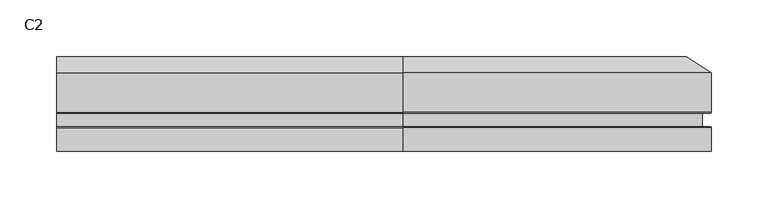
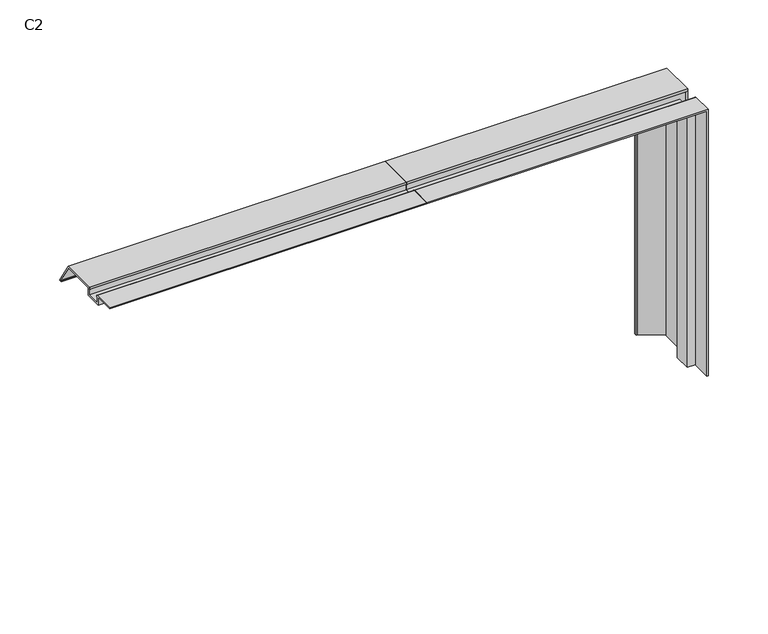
"""IFC4 building model written with IfcOpenShell, lengths in millimetres: proxy geometry, C2 profil cokolowy : C2."""

from ifc_helpers import new_model, si_unit, point, frame, frame_2d, origin, place, context, project, spatial, polyline, circle_curve, ellipse_curve, trimmed, segment, composite_curve, outline, extrude, source, transform, mapped, element, save
from ifc_brep_helpers import plane_surface, cylinder_surface, advanced_brep


def c2_118964cf(model_context):
    return source(origin(), model_context, "Body", "SolidModel", [
        advanced_brep(
        [(306.0, -62.6, 22.4417007), (306.0, -62.6, 16.8000012), (306.0, -49.2, 16.8000012), (306.0, -49.2, 22.4417007), (306.0, -48.9, 24.6000012), (306.0, -14.2215416, 24.6000012), (306.0, 0.0, 2.6407585), (306.0, 0.0, 1.8218762), (306.0, -2.4884184, 1.8218762), (306.0, -2.4884184, 2.700191), (306.0, -1.6694319, 2.700191), (306.0, -14.9821643, 23.2000012), (306.0, -47.8, 23.2000012), (306.0, -47.8, 15.4000012), (306.0, -64.0, 15.4000012), (306.0, -64.0, 23.2000012), (306.0, -83.4, 23.2000012), (306.0, -83.4, 24.6000012), (306.0, -62.9, 24.6000012), (575.4417007, -62.6, -247.0), (577.6000012, -62.9, -247.0), (577.6000012, -83.4, -247.0), (576.2000012, -83.4, -247.0), (576.2000012, -64.0, -247.0), (568.4000012, -64.0, -247.0), (568.4000012, -47.8, -247.0), (576.2000012, -47.8, -247.0), (576.2000012, -14.9821643, -247.0), (555.700191, -1.6694319, -247.0), (555.700191, -2.4884184, -247.0), (554.8218762, -2.4884184, -247.0), (554.8218762, 0.0, -247.0), (555.6407585, 0.0, -247.0), (577.6000012, -14.2215416, -247.0), (577.6000012, -48.9, -247.0), (575.4417007, -49.2, -247.0), (569.8000012, -49.2, -247.0), (569.8000012, -62.6, -247.0), (575.4417007, -62.6, 22.4417007), (569.8000012, -62.6, 16.8000012), (569.8000012, -49.2, 16.8000012), (575.4417007, -49.2, 22.4417007), (577.6000012, -48.9, 24.6000012), (577.6000012, -14.2215416, 24.6000012), (555.6407585, 0.0, 2.6407585), (554.8218762, 0.0, 1.8218762), (554.8218762, -2.4884184, 1.8218762), (555.700191, -2.4884184, 2.700191), (555.700191, -1.6694319, 2.700191), (576.2000012, -14.9821643, 23.2000012), (576.2000012, -47.8, 23.2000012), (568.4000012, -47.8, 15.4000012), (568.4000012, -64.0, 15.4000012), (576.2000012, -64.0, 23.2000012), (576.2000012, -83.4, 23.2000012), (577.6000012, -83.4, 24.6000012), (577.6000012, -62.9, 24.6000012)],
        [
            (0, 1),
            (1, 2),
            (2, 3),
            (3, 4, circle_curve(frame((306.0, -48.9, 23.5000012), z_axis=(-1.0, 0.0, 0.0), x_axis=(0.0, 0.0, 1.0)), 1.1)),
            (4, 5),
            (5, 6),
            (6, 7),
            (7, 8),
            (8, 9),
            (9, 10),
            (10, 11),
            (11, 12),
            (12, 13),
            (13, 14),
            (14, 15),
            (15, 16),
            (16, 17),
            (17, 18),
            (18, 0, circle_curve(frame((306.0, -62.9, 23.5000012), z_axis=(-1.0, 0.0, 0.0), x_axis=(0.0, 0.0, 1.0)), 1.1)),
            (19, 20, circle_curve(frame((576.5000012, -62.9, -247.0), z_axis=(0.0, 0.0, -1.0), x_axis=(1.0, 0.0, 0.0)), 1.1)),
            (20, 21),
            (21, 22),
            (22, 23),
            (23, 24),
            (24, 25),
            (25, 26),
            (26, 27),
            (27, 28),
            (28, 29),
            (29, 30),
            (30, 31),
            (31, 32),
            (32, 33),
            (33, 34),
            (34, 35, circle_curve(frame((576.5000012, -48.9, -247.0), z_axis=(0.0, 0.0, -1.0), x_axis=(1.0, 0.0, 0.0)), 1.1)),
            (35, 36),
            (36, 37),
            (37, 19),
            (0, 38),
            (38, 19),
            (37, 39),
            (39, 1),
            (39, 40),
            (40, 2),
            (40, 36),
            (35, 41),
            (41, 3),
            (41, 42, ellipse_curve(frame((576.5000012, -48.9, 23.5000012), z_axis=(-0.707106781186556, 0.0, 0.7071067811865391), x_axis=(-0.7071067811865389, 0.0, -0.707106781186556)), 1.5556349, 1.1)),
            (42, 4),
            (42, 43),
            (43, 5),
            (43, 44),
            (44, 6),
            (44, 32),
            (31, 45),
            (45, 7),
            (45, 46),
            (46, 8),
            (46, 30),
            (29, 47),
            (47, 9),
            (47, 48),
            (48, 10),
            (48, 49),
            (49, 11),
            (49, 50),
            (50, 12),
            (50, 26),
            (25, 51),
            (51, 13),
            (51, 52),
            (52, 14),
            (52, 24),
            (23, 53),
            (53, 15),
            (53, 54),
            (54, 16),
            (54, 22),
            (21, 55),
            (55, 17),
            (55, 56),
            (56, 18),
            (56, 38, ellipse_curve(frame((576.5000012, -62.9, 23.5000012), z_axis=(-0.707106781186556, 0.0, 0.7071067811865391), x_axis=(-0.7071067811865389, 0.0, -0.707106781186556)), 1.5556349, 1.1)),
            (34, 42),
            (33, 43),
            (28, 48),
            (27, 49),
            (20, 56),
        ],
        [
            plane_surface(frame((306.0, 0.0, 0.0), z_axis=(-1.0, 0.0, 0.0), x_axis=(0.0, 1.0, 0.0))),
            plane_surface(frame((553.0, 0.0, -247.0), z_axis=(0.0, 0.0, -1.0), x_axis=(0.0, 1.0, 0.0))),
            plane_surface(frame((306.0, -62.6, 16.8000012), z_axis=(0.0, 1.0, 0.0), x_axis=(1.0, 0.0, 0.0))),
            plane_surface(frame((306.0, -49.2, 16.8000012), z_axis=(0.0, 0.0, 1.0), x_axis=(1.0, 0.0, 0.0))),
            plane_surface(frame((306.0, -49.2, 22.4417007), z_axis=(0.0, -1.0, 0.0), x_axis=(1.0, 0.0, 0.0))),
            cylinder_surface(frame((306.0, -48.9, 23.5000012), z_axis=(-1.0, 0.0, 0.0), x_axis=(0.0, 0.0, 1.0)), 1.1),
            plane_surface(frame((306.0, -14.2215416, 24.6000012), z_axis=(0.0, 0.0, 1.0), x_axis=(1.0, 0.0, 0.0))),
            plane_surface(frame((306.0, 0.0, 2.6407585), z_axis=(0.0, 0.8393500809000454, 0.5435912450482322), x_axis=(1.0, 0.0, 0.0))),
            plane_surface(frame((306.0, 0.0, 1.8218762), z_axis=(0.0, 1.0, 0.0), x_axis=(1.0, 0.0, 0.0))),
            plane_surface(frame((306.0, -2.4884184, 1.8218762), z_axis=(0.0, 0.0, -1.0), x_axis=(1.0, 0.0, 0.0))),
            plane_surface(frame((306.0, -2.4884184, 2.700191), z_axis=(0.0, -1.0, 0.0), x_axis=(1.0, 0.0, 0.0))),
            plane_surface(frame((306.0, -1.6694319, 2.700191), z_axis=(0.0, 0.0, 1.0), x_axis=(1.0, 0.0, 0.0))),
            plane_surface(frame((306.0, -14.9821643, 23.2000012), z_axis=(0.0, -0.838670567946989, -0.5446390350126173), x_axis=(1.0, 0.0, 0.0))),
            plane_surface(frame((306.0, -47.8, 23.2000012), z_axis=(0.0, 0.0, -1.0), x_axis=(1.0, 0.0, 0.0))),
            plane_surface(frame((306.0, -47.8, 15.4000012), z_axis=(0.0, 1.0, 0.0), x_axis=(1.0, 0.0, 0.0))),
            plane_surface(frame((306.0, -64.0, 15.4000012), z_axis=(0.0, 0.0, -1.0), x_axis=(1.0, 0.0, 0.0))),
            plane_surface(frame((306.0, -64.0, 23.2000012), z_axis=(0.0, -1.0, 0.0), x_axis=(1.0, 0.0, 0.0))),
            plane_surface(frame((306.0, -83.4, 23.2000012), z_axis=(0.0, 0.0, -1.0), x_axis=(1.0, 0.0, 0.0))),
            plane_surface(frame((306.0, -83.4, 24.6000012), z_axis=(0.0, -1.0, 0.0), x_axis=(1.0, 0.0, 0.0))),
            plane_surface(frame((306.0, -62.9, 24.6000012), z_axis=(0.0, 0.0, 1.0), x_axis=(1.0, 0.0, 0.0))),
            cylinder_surface(frame((306.0, -62.9, 23.5000012), z_axis=(-1.0, 0.0, 0.0), x_axis=(0.0, 0.0, 1.0)), 1.1),
            plane_surface(frame((569.8000012, -49.2, 16.8000012), z_axis=(1.0, 0.0, 0.0), x_axis=(0.0, 0.0, -1.0))),
            cylinder_surface(frame((576.5000012, -48.9, 0.0), z_axis=(0.0, 0.0, 1.0), x_axis=(1.0, 0.0, 0.0)), 1.1),
            plane_surface(frame((577.6000012, -14.2215416, 24.6000012), z_axis=(1.0, 0.0, 0.0), x_axis=(0.0, 0.0, -1.0))),
            plane_surface(frame((555.6407585, 0.0, 2.6407585), z_axis=(0.5435912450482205, 0.8393500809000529, 0.0), x_axis=(0.0, 0.0, -1.0))),
            plane_surface(frame((554.8218762, -2.4884184, 1.8218762), z_axis=(-1.0, 0.0, 0.0), x_axis=(0.0, 0.0, -1.0))),
            plane_surface(frame((555.700191, -1.6694319, 2.700191), z_axis=(1.0, 0.0, 0.0), x_axis=(0.0, 0.0, -1.0))),
            plane_surface(frame((576.2000012, -14.9821643, 23.2000012), z_axis=(-0.5446390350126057, -0.8386705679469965, 0.0), x_axis=(0.0, 0.0, -1.0))),
            plane_surface(frame((576.2000012, -47.8, 23.2000012), z_axis=(-1.0, 0.0, 0.0), x_axis=(0.0, 0.0, -1.0))),
            plane_surface(frame((568.4000012, -64.0, 15.4000012), z_axis=(-1.0, 0.0, 0.0), x_axis=(0.0, 0.0, -1.0))),
            plane_surface(frame((576.2000012, -83.4, 23.2000012), z_axis=(-1.0, 0.0, 0.0), x_axis=(0.0, 0.0, -1.0))),
            plane_surface(frame((577.6000012, -62.9, 24.6000012), z_axis=(1.0, 0.0, 0.0), x_axis=(0.0, 0.0, -1.0))),
            cylinder_surface(frame((576.5000012, -62.9, 0.0), z_axis=(0.0, 0.0, 1.0), x_axis=(1.0, 0.0, 0.0)), 1.1),
        ],
        [
            (0, [[1, 2, 3, 4, 5, 6, 7, 8, 9, 10, 11, 12, 13, 14, 15, 16, 17, 18, 19]]),
            (1, [[20, 21, 22, 23, 24, 25, 26, 27, 28, 29, 30, 31, 32, 33, 34, 35, 36, 37, 38]]),
            (2, [[39, 40, -38, 41, 42, -1]]),
            (3, [[-42, 43, 44, -2]]),
            (4, [[-44, 45, -36, 46, 47, -3]]),
            (5, [[-47, 48, 49, -4]]),
            (6, [[-49, 50, 51, -5]]),
            (7, [[-51, 52, 53, -6]]),
            (8, [[-53, 54, -32, 55, 56, -7]]),
            (9, [[-56, 57, 58, -8]]),
            (10, [[-58, 59, -30, 60, 61, -9]]),
            (11, [[-61, 62, 63, -10]]),
            (12, [[-63, 64, 65, -11]]),
            (13, [[-65, 66, 67, -12]]),
            (14, [[-67, 68, -26, 69, 70, -13]]),
            (15, [[-70, 71, 72, -14]]),
            (16, [[-72, 73, -24, 74, 75, -15]]),
            (17, [[-75, 76, 77, -16]]),
            (18, [[-77, 78, -22, 79, 80, -17]]),
            (19, [[-80, 81, 82, -18]]),
            (20, [[-82, 83, -39, -19]]),
            (21, [[-41, -37, -45, -43]]),
            (22, [[-46, -35, 84, -48]]),
            (23, [[-84, -34, 85, -50]]),
            (24, [[-85, -33, -54, -52]]),
            (25, [[-55, -31, -59, -57]]),
            (26, [[-60, -29, 86, -62]]),
            (27, [[-86, -28, 87, -64]]),
            (28, [[-87, -27, -68, -66]]),
            (29, [[-69, -25, -73, -71]]),
            (30, [[-74, -23, -78, -76]]),
            (31, [[-79, -21, 88, -81]]),
            (32, [[-88, -20, -40, -83]]),
        ],
    ),
        extrude(outline(composite_curve([segment(polyline([(-62.6, 22.4417007), (-62.6, 16.8000012), (-49.2, 16.8000012), (-49.2, 22.4417007)]), True, "CONTINUOUS"), segment(trimmed(circle_curve(frame_2d((-48.9, 23.5000012)), 1.1), [point((-49.2, 22.4417007))], [point((-48.9, 24.6000012))], False, "CARTESIAN"), True, "CONTINUOUS"), segment(polyline([(-48.9, 24.6000012), (-14.2215416, 24.6000012), (0.0, 2.6407585), (0.0, 1.8218762), (-2.4884184, 1.8218762), (-2.4884184, 2.700191), (-1.6694319, 2.700191), (-14.9821643, 23.2000012), (-47.8, 23.2000012), (-47.8, 15.4000012), (-64.0, 15.4000012), (-64.0, 23.2000012), (-83.4, 23.2000012), (-83.4, 24.6000012), (-62.9, 24.6000012)]), True, "CONTINUOUS"), segment(trimmed(circle_curve(frame_2d((-62.9, 23.5000012)), 1.1), [point((-62.9, 24.6000012))], [point((-62.6, 22.4417007))], False, "CARTESIAN"), True, "CONTINUOUS")], self_intersect=False)), frame((0.0, 0.0, 0.0), z_axis=(1.0, 0.0, 0.0), x_axis=(0.0, 1.0, 0.0)), (0.0, 0.0, 1.0), 306.0),
    ])


if __name__ == "__main__":
    model = new_model("IFC4")
    model_context = context("Model", 3, world=origin())
    ifc_project = project(units=[si_unit("LENGTHUNIT", "METRE", prefix="MILLI")], contexts=[model_context])
    site = spatial("IfcSite", under=ifc_project)
    building = spatial("IfcBuilding", under=site)
    placement = place(None, origin())
    c2_shape = c2_118964cf(model_context)
    element("IfcBuildingElementProxy", 1, Name="C2 profil cokolowy : C2", ObjectType="C2 profil cokolowy : C2", at=placement, inside=building, context=model_context, shape_type="MappedRepresentation", body=[
        mapped(c2_shape, transform((0.0, 0.0, 0.0), x_axis=(1.0, 0.0, 0.0), y_axis=(0.0, 1.0, 0.0), z_axis=(0.0, 0.0, 1.0))),
    ])
    save(model, "model.ifc")
